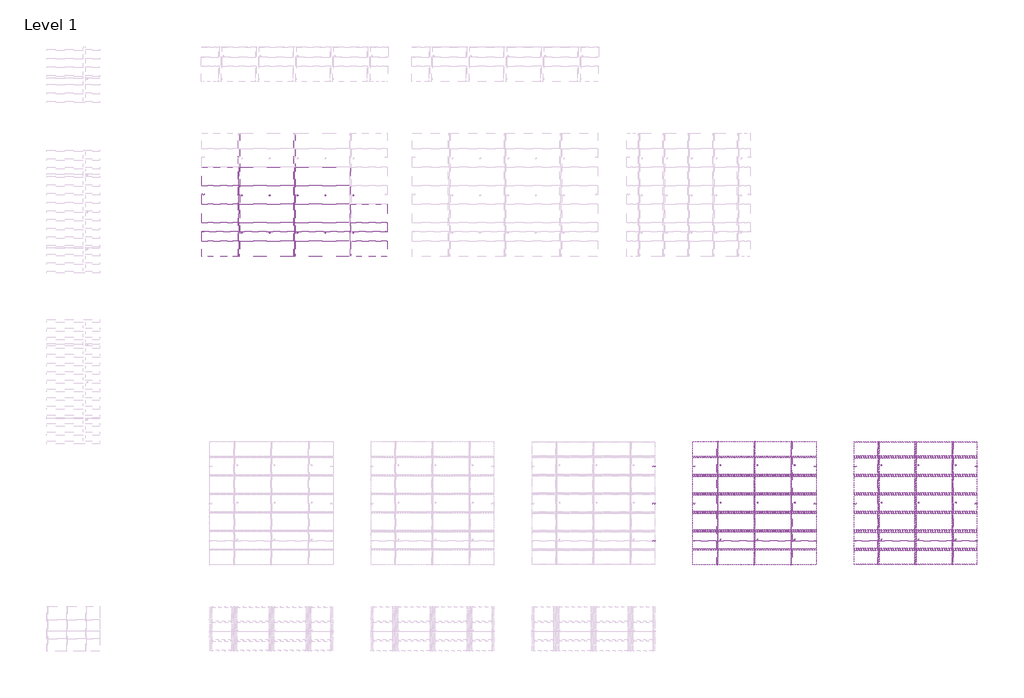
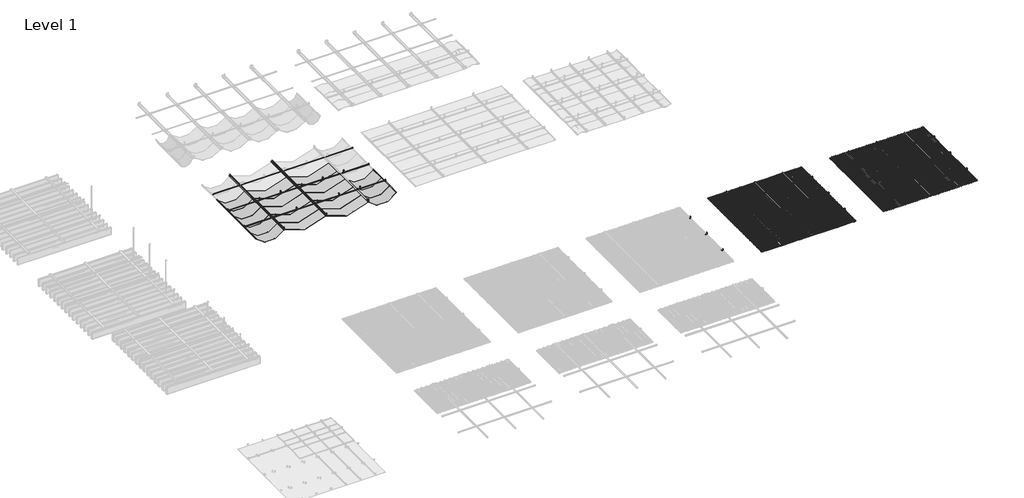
# One storey, part 29 of 32: 139 proxies.
"""IFC4 building model written with IfcOpenShell, lengths in millimetres."""

from ifc_helpers import new_model, si_unit, origin, place, context, project, spatial, transform, mapped, element, save
from components import generic_models_e8bac300, generic_models_696bcd8b, generic_models_00a943c8, generic_models_48d4e553, generic_models_385183af, generic_models_f4ce44e0, generic_models_ed86a27e, generic_models_4d5361e3, generic_models_770e7c39, generic_models_13372249, generic_models_8601f142, generic_models_3a5bc9b1, generic_models_3ca3e638, generic_models_450fa989, generic_models_d4018781, generic_models_44111244, generic_models_f6474ad0, generic_models_9e18e937, generic_models_28f6a95c, generic_models_9ccf16c1, generic_models_743fb40c

model = new_model("IFC4")

# Units and contexts
model_context = context("Model", 3, world=origin())
ifc_project = project(units=[si_unit("LENGTHUNIT", "METRE", prefix="MILLI")], contexts=[model_context])

# Site, building, storey
site = spatial("IfcSite", under=ifc_project)
building = spatial("IfcBuilding", under=site)
storey = spatial("IfcBuildingStorey", under=building, Name="Level 1", Elevation=0.0)

# Proxies
placement = place(None, origin())
generic_models_shape = generic_models_e8bac300(model_context)
element("IfcBuildingElementProxy", 1, Name="durlum_S7_DOMUS : durlum_S7_DOMUS", ObjectType="durlum_S7_DOMUS : durlum_S7_DOMUS", at=placement, inside=storey, context=model_context, shape_type="MappedRepresentation", body=[
    mapped(generic_models_shape, transform((36666.0104325, 19037.9344659, 0.0), x_axis=(1.0, 0.0, 0.0), y_axis=(0.0, 1.0, 0.0), z_axis=(0.0, 0.0, 1.0))),
])
generic_models_2_shape = generic_models_696bcd8b(model_context)
element("IfcBuildingElementProxy", 2, Name="durlum_S7_DOMUS_panel : durlum_S7_DOMUS_panel", ObjectType="durlum_S7_DOMUS_panel : durlum_S7_DOMUS_panel", at=placement, inside=storey, context=model_context, shape_type="MappedRepresentation", body=[
    mapped(generic_models_2_shape, transform((35766.0104325, 19637.9344659, 3800.0), x_axis=(1.0, 0.0, 0.0), y_axis=(0.0, 1.0, 0.0), z_axis=(0.0, 0.0, 1.0))),
])
element("IfcBuildingElementProxy", 3, Name="durlum_S7_DOMUS_panel : durlum_S7_DOMUS_panel", ObjectType="durlum_S7_DOMUS_panel : durlum_S7_DOMUS_panel", at=placement, inside=storey, context=model_context, shape_type="MappedRepresentation", body=[
    mapped(generic_models_2_shape, transform((37566.0104325, 19637.9344659, 3800.0), x_axis=(1.0, 0.0, 0.0), y_axis=(0.0, 1.0, 0.0), z_axis=(0.0, 0.0, 1.0))),
])
element("IfcBuildingElementProxy", 4, Name="durlum_S7_DOMUS_panel : durlum_S7_DOMUS_panel", ObjectType="durlum_S7_DOMUS_panel : durlum_S7_DOMUS_panel", at=placement, inside=storey, context=model_context, shape_type="MappedRepresentation", body=[
    mapped(generic_models_2_shape, transform((35766.0104325, 17837.9344659, 3800.0), x_axis=(1.0, 0.0, 0.0), y_axis=(0.0, 1.0, 0.0), z_axis=(0.0, 0.0, 1.0))),
])
element("IfcBuildingElementProxy", 5, Name="durlum_S7_DOMUS_panel : durlum_S7_DOMUS_panel", ObjectType="durlum_S7_DOMUS_panel : durlum_S7_DOMUS_panel", at=placement, inside=storey, context=model_context, shape_type="MappedRepresentation", body=[
    mapped(generic_models_2_shape, transform((37566.0104325, 17837.9344659, 3800.0), x_axis=(1.0, 0.0, 0.0), y_axis=(0.0, 1.0, 0.0), z_axis=(0.0, 0.0, 1.0))),
])
element("IfcBuildingElementProxy", 6, Name="durlum_S7_DOMUS_panel : durlum_S7_DOMUS_panel", ObjectType="durlum_S7_DOMUS_panel : durlum_S7_DOMUS_panel", at=placement, inside=storey, context=model_context, shape_type="MappedRepresentation", body=[
    mapped(generic_models_2_shape, transform((35766.0104325, 18437.9344659, 3800.0), x_axis=(1.0, 0.0, 0.0), y_axis=(0.0, 1.0, 0.0), z_axis=(0.0, 0.0, 1.0))),
])
element("IfcBuildingElementProxy", 7, Name="durlum_S7_DOMUS_panel : durlum_S7_DOMUS_panel", ObjectType="durlum_S7_DOMUS_panel : durlum_S7_DOMUS_panel", at=placement, inside=storey, context=model_context, shape_type="MappedRepresentation", body=[
    mapped(generic_models_2_shape, transform((37566.0104325, 18437.9344659, 3800.0), x_axis=(1.0, 0.0, 0.0), y_axis=(0.0, 1.0, 0.0), z_axis=(0.0, 0.0, 1.0))),
])
element("IfcBuildingElementProxy", 8, Name="durlum_S7_DOMUS_panel : durlum_S7_DOMUS_panel", ObjectType="durlum_S7_DOMUS_panel : durlum_S7_DOMUS_panel", at=placement, inside=storey, context=model_context, shape_type="MappedRepresentation", body=[
    mapped(generic_models_2_shape, transform((35766.0104325, 19037.9344659, 3800.0), x_axis=(1.0, 0.0, 0.0), y_axis=(0.0, 1.0, 0.0), z_axis=(0.0, 0.0, 1.0))),
])
element("IfcBuildingElementProxy", 9, Name="durlum_S7_DOMUS_panel : durlum_S7_DOMUS_panel", ObjectType="durlum_S7_DOMUS_panel : durlum_S7_DOMUS_panel", at=placement, inside=storey, context=model_context, shape_type="MappedRepresentation", body=[
    mapped(generic_models_2_shape, transform((37566.0104325, 19037.9344659, 3800.0), x_axis=(1.0, 0.0, 0.0), y_axis=(0.0, 1.0, 0.0), z_axis=(0.0, 0.0, 1.0))),
])
generic_models_3_shape = generic_models_00a943c8(model_context)
element("IfcBuildingElementProxy", 10, Name="durlum_S7_DOMUS_panel : durlum_S7_DOMUS_panel_wall_width_cut", ObjectType="durlum_S7_DOMUS_panel : durlum_S7_DOMUS_panel_wall_width_cut", at=placement, inside=storey, context=model_context, shape_type="MappedRepresentation", body=[
    mapped(generic_models_3_shape, transform((37566.0104325, 17287.9344659, 3800.0), x_axis=(1.0, 0.0, 0.0), y_axis=(0.0, 1.0, 0.0), z_axis=(0.0, 0.0, 1.0))),
])
element("IfcBuildingElementProxy", 11, Name="durlum_S7_DOMUS_panel : durlum_S7_DOMUS_panel_wall_width_cut", ObjectType="durlum_S7_DOMUS_panel : durlum_S7_DOMUS_panel_wall_width_cut", at=placement, inside=storey, context=model_context, shape_type="MappedRepresentation", body=[
    mapped(generic_models_3_shape, transform((35766.0104325, 17287.9344659, 3800.0), x_axis=(1.0, 0.0, 0.0), y_axis=(0.0, 1.0, 0.0), z_axis=(0.0, 0.0, 1.0))),
])
generic_models_4_shape = generic_models_48d4e553(model_context)
element("IfcBuildingElementProxy", 12, Name="durlum_S7_DOMUS_panel : durlum_S7_DOMUS_panel_wall_length_cut", ObjectType="durlum_S7_DOMUS_panel : durlum_S7_DOMUS_panel_wall_length_cut", at=placement, inside=storey, context=model_context, shape_type="MappedRepresentation", body=[
    mapped(generic_models_4_shape, transform((34266.0104325, 18437.9344659, 3800.0), x_axis=(1.0, 0.0, 0.0), y_axis=(0.0, 1.0, 0.0), z_axis=(0.0, 0.0, 1.0))),
])
element("IfcBuildingElementProxy", 13, Name="durlum_S7_DOMUS_panel : durlum_S7_DOMUS_panel_wall_length_cut", ObjectType="durlum_S7_DOMUS_panel : durlum_S7_DOMUS_panel_wall_length_cut", at=placement, inside=storey, context=model_context, shape_type="MappedRepresentation", body=[
    mapped(generic_models_4_shape, transform((34266.0104325, 19037.9344659, 3800.0), x_axis=(1.0, 0.0, 0.0), y_axis=(0.0, 1.0, 0.0), z_axis=(0.0, 0.0, 1.0))),
])
element("IfcBuildingElementProxy", 14, Name="durlum_S7_DOMUS_panel : durlum_S7_DOMUS_panel_wall_length_cut", ObjectType="durlum_S7_DOMUS_panel : durlum_S7_DOMUS_panel_wall_length_cut", at=placement, inside=storey, context=model_context, shape_type="MappedRepresentation", body=[
    mapped(generic_models_4_shape, transform((39066.0104325, 18437.9344659, 3800.0), x_axis=(1.0, 0.0, 0.0), y_axis=(0.0, 1.0, 0.0), z_axis=(0.0, 0.0, 1.0))),
])
element("IfcBuildingElementProxy", 15, Name="durlum_S7_DOMUS_panel : durlum_S7_DOMUS_panel_wall_length_cut", ObjectType="durlum_S7_DOMUS_panel : durlum_S7_DOMUS_panel_wall_length_cut", at=placement, inside=storey, context=model_context, shape_type="MappedRepresentation", body=[
    mapped(generic_models_4_shape, transform((34266.0104325, 19637.9344659, 3800.0), x_axis=(1.0, 0.0, 0.0), y_axis=(0.0, 1.0, 0.0), z_axis=(0.0, 0.0, 1.0))),
])
element("IfcBuildingElementProxy", 16, Name="durlum_S7_DOMUS_panel : durlum_S7_DOMUS_panel_wall_length_cut", ObjectType="durlum_S7_DOMUS_panel : durlum_S7_DOMUS_panel_wall_length_cut", at=placement, inside=storey, context=model_context, shape_type="MappedRepresentation", body=[
    mapped(generic_models_4_shape, transform((34266.0104325, 17837.9344659, 3800.0), x_axis=(1.0, 0.0, 0.0), y_axis=(0.0, 1.0, 0.0), z_axis=(0.0, 0.0, 1.0))),
])
element("IfcBuildingElementProxy", 17, Name="durlum_S7_DOMUS_panel : durlum_S7_DOMUS_panel_wall_length_cut", ObjectType="durlum_S7_DOMUS_panel : durlum_S7_DOMUS_panel_wall_length_cut", at=placement, inside=storey, context=model_context, shape_type="MappedRepresentation", body=[
    mapped(generic_models_4_shape, transform((39066.0104325, 17837.9344659, 3800.0), x_axis=(1.0, 0.0, 0.0), y_axis=(0.0, 1.0, 0.0), z_axis=(0.0, 0.0, 1.0))),
])
generic_models_5_shape = generic_models_385183af(model_context)
element("IfcBuildingElementProxy", 18, Name="durlum_S7_DOMUS_panel : durlum_S7_DOMUS_panel", ObjectType="durlum_S7_DOMUS_panel : durlum_S7_DOMUS_panel", at=placement, inside=storey, context=model_context, shape_type="MappedRepresentation", body=[
    mapped(generic_models_5_shape, transform((34266.0104325, 17287.9344659, 3800.0), x_axis=(1.0, 0.0, 0.0), y_axis=(0.0, 1.0, 0.0), z_axis=(0.0, 0.0, 1.0))),
])
element("IfcBuildingElementProxy", 19, Name="durlum_S7_DOMUS_panel : durlum_S7_DOMUS_panel", ObjectType="durlum_S7_DOMUS_panel : durlum_S7_DOMUS_panel", at=placement, inside=storey, context=model_context, shape_type="MappedRepresentation", body=[
    mapped(generic_models_5_shape, transform((39066.0104325, 17287.9344659, 3800.0), x_axis=(1.0, 0.0, 0.0), y_axis=(0.0, 1.0, 0.0), z_axis=(0.0, 0.0, 1.0))),
])
generic_models_6_shape = generic_models_f4ce44e0(model_context)
element("IfcBuildingElementProxy", 20, Name="durlum_U94 : durlum_U94", ObjectType="durlum_U94 : durlum_U94", at=placement, inside=storey, context=model_context, shape_type="MappedRepresentation", body=[
    mapped(generic_models_6_shape, transform((51517.1423778, 9073.8007196, 3724.0), x_axis=(0.0, 1.0, 0.0), y_axis=(-1.0, 0.0, 0.0), z_axis=(0.0, 0.0, 1.0))),
])
element("IfcBuildingElementProxy", 21, Name="durlum_U94 : durlum_U94", ObjectType="durlum_U94 : durlum_U94", at=placement, inside=storey, context=model_context, shape_type="MappedRepresentation", body=[
    mapped(generic_models_6_shape, transform((50317.1423778, 9073.8007196, 3724.0), x_axis=(0.0, 1.0, 0.0), y_axis=(-1.0, 0.0, 0.0), z_axis=(0.0, 0.0, 1.0))),
])
element("IfcBuildingElementProxy", 22, Name="durlum_U94 : durlum_U94", ObjectType="durlum_U94 : durlum_U94", at=placement, inside=storey, context=model_context, shape_type="MappedRepresentation", body=[
    mapped(generic_models_6_shape, transform((52717.1423778, 9073.8007196, 3724.0), x_axis=(0.0, 1.0, 0.0), y_axis=(-1.0, 0.0, 0.0), z_axis=(0.0, 0.0, 1.0))),
])
element("IfcBuildingElementProxy", 23, Name="durlum_U94 : durlum_U94", ObjectType="durlum_U94 : durlum_U94", at=placement, inside=storey, context=model_context, shape_type="MappedRepresentation", body=[
    mapped(generic_models_6_shape, transform((56717.1423778, 9073.8007196, 3724.0), x_axis=(0.0, 1.0, 0.0), y_axis=(-1.0, 0.0, 0.0), z_axis=(0.0, 0.0, 1.0))),
])
element("IfcBuildingElementProxy", 24, Name="durlum_U94 : durlum_U94", ObjectType="durlum_U94 : durlum_U94", at=placement, inside=storey, context=model_context, shape_type="MappedRepresentation", body=[
    mapped(generic_models_6_shape, transform((55517.1423778, 9073.8007196, 3724.0), x_axis=(0.0, 1.0, 0.0), y_axis=(-1.0, 0.0, 0.0), z_axis=(0.0, 0.0, 1.0))),
])
element("IfcBuildingElementProxy", 25, Name="durlum_U94 : durlum_U94", ObjectType="durlum_U94 : durlum_U94", at=placement, inside=storey, context=model_context, shape_type="MappedRepresentation", body=[
    mapped(generic_models_6_shape, transform((57917.1423778, 9073.8007196, 3724.0), x_axis=(0.0, 1.0, 0.0), y_axis=(-1.0, 0.0, 0.0), z_axis=(0.0, 0.0, 1.0))),
])
generic_models_7_shape = generic_models_ed86a27e(model_context)
element("IfcBuildingElementProxy", 26, Name="durlum_QUADRA : durlum_QUADRA", ObjectType="durlum_QUADRA : durlum_QUADRA", at=placement, inside=storey, context=model_context, shape_type="MappedRepresentation", body=[
    mapped(generic_models_7_shape, transform((51517.1423778, 9073.8007196, 0.0), x_axis=(1.0, 0.0, 0.0), y_axis=(0.0, 1.0, 0.0), z_axis=(0.0, 0.0, 1.0))),
])
generic_models_8_shape = generic_models_4d5361e3(model_context)
element("IfcBuildingElementProxy", 27, Name="durlum_QUADRA_panel : durlum_QUADRA_length_cut", ObjectType="durlum_QUADRA_panel : durlum_QUADRA_length_cut", at=placement, inside=storey, context=model_context, shape_type="MappedRepresentation", body=[
    mapped(generic_models_8_shape, transform((49916.8923778, 9673.8007196, 3700.0), x_axis=(1.0, 0.0, 0.0), y_axis=(0.0, 1.0, 0.0), z_axis=(0.0, 0.0, 1.0))),
])
element("IfcBuildingElementProxy", 28, Name="durlum_QUADRA_panel : durlum_QUADRA_length_cut", ObjectType="durlum_QUADRA_panel : durlum_QUADRA_length_cut", at=placement, inside=storey, context=model_context, shape_type="MappedRepresentation", body=[
    mapped(generic_models_8_shape, transform((49916.8923778, 9073.8007196, 3700.0), x_axis=(1.0, 0.0, 0.0), y_axis=(0.0, 1.0, 0.0), z_axis=(0.0, 0.0, 1.0))),
])
element("IfcBuildingElementProxy", 29, Name="durlum_QUADRA_panel : durlum_QUADRA_length_cut", ObjectType="durlum_QUADRA_panel : durlum_QUADRA_length_cut", at=placement, inside=storey, context=model_context, shape_type="MappedRepresentation", body=[
    mapped(generic_models_8_shape, transform((49916.8923778, 8473.8007196, 3700.0), x_axis=(1.0, 0.0, 0.0), y_axis=(0.0, 1.0, 0.0), z_axis=(0.0, 0.0, 1.0))),
])
element("IfcBuildingElementProxy", 30, Name="durlum_QUADRA_panel : durlum_QUADRA_length_cut", ObjectType="durlum_QUADRA_panel : durlum_QUADRA_length_cut", at=placement, inside=storey, context=model_context, shape_type="MappedRepresentation", body=[
    mapped(generic_models_8_shape, transform((53117.3923778, 9673.8007196, 3700.0), x_axis=(1.0, 0.0, 0.0), y_axis=(0.0, 1.0, 0.0), z_axis=(0.0, 0.0, 1.0))),
])
element("IfcBuildingElementProxy", 31, Name="durlum_QUADRA_panel : durlum_QUADRA_length_cut", ObjectType="durlum_QUADRA_panel : durlum_QUADRA_length_cut", at=placement, inside=storey, context=model_context, shape_type="MappedRepresentation", body=[
    mapped(generic_models_8_shape, transform((53117.3923778, 9073.8007196, 3700.0), x_axis=(1.0, 0.0, 0.0), y_axis=(0.0, 1.0, 0.0), z_axis=(0.0, 0.0, 1.0))),
])
element("IfcBuildingElementProxy", 32, Name="durlum_QUADRA_panel : durlum_QUADRA_length_cut", ObjectType="durlum_QUADRA_panel : durlum_QUADRA_length_cut", at=placement, inside=storey, context=model_context, shape_type="MappedRepresentation", body=[
    mapped(generic_models_8_shape, transform((53117.3923778, 8473.8007196, 3700.0), x_axis=(1.0, 0.0, 0.0), y_axis=(0.0, 1.0, 0.0), z_axis=(0.0, 0.0, 1.0))),
])
element("IfcBuildingElementProxy", 33, Name="durlum_QUADRA_panel : durlum_QUADRA_length_cut", ObjectType="durlum_QUADRA_panel : durlum_QUADRA_length_cut", at=placement, inside=storey, context=model_context, shape_type="MappedRepresentation", body=[
    mapped(generic_models_8_shape, transform((53117.3923778, 10273.8007196, 3700.0), x_axis=(1.0, 0.0, 0.0), y_axis=(0.0, 1.0, 0.0), z_axis=(0.0, 0.0, 1.0))),
])
element("IfcBuildingElementProxy", 34, Name="durlum_QUADRA_panel : durlum_QUADRA_length_cut", ObjectType="durlum_QUADRA_panel : durlum_QUADRA_length_cut", at=placement, inside=storey, context=model_context, shape_type="MappedRepresentation", body=[
    mapped(generic_models_8_shape, transform((49916.8923778, 10273.8007196, 3700.0), x_axis=(1.0, 0.0, 0.0), y_axis=(0.0, 1.0, 0.0), z_axis=(0.0, 0.0, 1.0))),
])
element("IfcBuildingElementProxy", 35, Name="durlum_QUADRA_panel : durlum_QUADRA_length_cut", ObjectType="durlum_QUADRA_panel : durlum_QUADRA_length_cut", at=placement, inside=storey, context=model_context, shape_type="MappedRepresentation", body=[
    mapped(generic_models_8_shape, transform((49916.8923778, 7873.8007196, 3700.0), x_axis=(1.0, 0.0, 0.0), y_axis=(0.0, 1.0, 0.0), z_axis=(0.0, 0.0, 1.0))),
])
element("IfcBuildingElementProxy", 36, Name="durlum_QUADRA_panel : durlum_QUADRA_length_cut", ObjectType="durlum_QUADRA_panel : durlum_QUADRA_length_cut", at=placement, inside=storey, context=model_context, shape_type="MappedRepresentation", body=[
    mapped(generic_models_8_shape, transform((53117.3923778, 7873.8007196, 3700.0), x_axis=(1.0, 0.0, 0.0), y_axis=(0.0, 1.0, 0.0), z_axis=(0.0, 0.0, 1.0))),
])
generic_models_9_shape = generic_models_770e7c39(model_context)
element("IfcBuildingElementProxy", 37, Name="durlum_QUADRA_panel : durlum_QUADRA_width_cut", ObjectType="durlum_QUADRA_panel : durlum_QUADRA_width_cut", at=placement, inside=storey, context=model_context, shape_type="MappedRepresentation", body=[
    mapped(generic_models_9_shape, transform((50917.1423778, 7323.8007196, 3700.0), x_axis=(1.0, 0.0, 0.0), y_axis=(0.0, 1.0, 0.0), z_axis=(0.0, 0.0, 1.0))),
])
element("IfcBuildingElementProxy", 38, Name="durlum_QUADRA_panel : durlum_QUADRA_width_cut", ObjectType="durlum_QUADRA_panel : durlum_QUADRA_width_cut", at=placement, inside=storey, context=model_context, shape_type="MappedRepresentation", body=[
    mapped(generic_models_9_shape, transform((50917.1423778, 10823.8007196, 3700.0), x_axis=(1.0, 0.0, 0.0), y_axis=(0.0, 1.0, 0.0), z_axis=(0.0, 0.0, 1.0))),
])
element("IfcBuildingElementProxy", 39, Name="durlum_QUADRA_panel : durlum_QUADRA_width_cut", ObjectType="durlum_QUADRA_panel : durlum_QUADRA_width_cut", at=placement, inside=storey, context=model_context, shape_type="MappedRepresentation", body=[
    mapped(generic_models_9_shape, transform((52117.1423778, 7323.8007196, 3700.0), x_axis=(1.0, 0.0, 0.0), y_axis=(0.0, 1.0, 0.0), z_axis=(0.0, 0.0, 1.0))),
])
element("IfcBuildingElementProxy", 40, Name="durlum_QUADRA_panel : durlum_QUADRA_width_cut", ObjectType="durlum_QUADRA_panel : durlum_QUADRA_width_cut", at=placement, inside=storey, context=model_context, shape_type="MappedRepresentation", body=[
    mapped(generic_models_9_shape, transform((52117.1423778, 10823.8007196, 3700.0), x_axis=(1.0, 0.0, 0.0), y_axis=(0.0, 1.0, 0.0), z_axis=(0.0, 0.0, 1.0))),
])
generic_models_10_shape = generic_models_13372249(model_context)
element("IfcBuildingElementProxy", 41, Name="durlum_QUADRA_panel : durlum_QUADRA", ObjectType="durlum_QUADRA_panel : durlum_QUADRA", at=placement, inside=storey, context=model_context, shape_type="MappedRepresentation", body=[
    mapped(generic_models_10_shape, transform((50917.1423778, 8473.8007196, 3700.0), x_axis=(1.0, 0.0, 0.0), y_axis=(0.0, 1.0, 0.0), z_axis=(0.0, 0.0, 1.0))),
])
element("IfcBuildingElementProxy", 42, Name="durlum_QUADRA_panel : durlum_QUADRA", ObjectType="durlum_QUADRA_panel : durlum_QUADRA", at=placement, inside=storey, context=model_context, shape_type="MappedRepresentation", body=[
    mapped(generic_models_10_shape, transform((52117.1423778, 8473.8007196, 3700.0), x_axis=(1.0, 0.0, 0.0), y_axis=(0.0, 1.0, 0.0), z_axis=(0.0, 0.0, 1.0))),
])
element("IfcBuildingElementProxy", 43, Name="durlum_QUADRA_panel : durlum_QUADRA", ObjectType="durlum_QUADRA_panel : durlum_QUADRA", at=placement, inside=storey, context=model_context, shape_type="MappedRepresentation", body=[
    mapped(generic_models_10_shape, transform((50917.1423778, 9073.8007196, 3700.0), x_axis=(1.0, 0.0, 0.0), y_axis=(0.0, 1.0, 0.0), z_axis=(0.0, 0.0, 1.0))),
])
element("IfcBuildingElementProxy", 44, Name="durlum_QUADRA_panel : durlum_QUADRA", ObjectType="durlum_QUADRA_panel : durlum_QUADRA", at=placement, inside=storey, context=model_context, shape_type="MappedRepresentation", body=[
    mapped(generic_models_10_shape, transform((52117.1423778, 9073.8007196, 3700.0), x_axis=(1.0, 0.0, 0.0), y_axis=(0.0, 1.0, 0.0), z_axis=(0.0, 0.0, 1.0))),
])
element("IfcBuildingElementProxy", 45, Name="durlum_QUADRA_panel : durlum_QUADRA", ObjectType="durlum_QUADRA_panel : durlum_QUADRA", at=placement, inside=storey, context=model_context, shape_type="MappedRepresentation", body=[
    mapped(generic_models_10_shape, transform((50917.1423778, 9673.8007196, 3700.0), x_axis=(1.0, 0.0, 0.0), y_axis=(0.0, 1.0, 0.0), z_axis=(0.0, 0.0, 1.0))),
])
element("IfcBuildingElementProxy", 46, Name="durlum_QUADRA_panel : durlum_QUADRA", ObjectType="durlum_QUADRA_panel : durlum_QUADRA", at=placement, inside=storey, context=model_context, shape_type="MappedRepresentation", body=[
    mapped(generic_models_10_shape, transform((52117.1423778, 9673.8007196, 3700.0), x_axis=(1.0, 0.0, 0.0), y_axis=(0.0, 1.0, 0.0), z_axis=(0.0, 0.0, 1.0))),
])
element("IfcBuildingElementProxy", 47, Name="durlum_QUADRA_panel : durlum_QUADRA", ObjectType="durlum_QUADRA_panel : durlum_QUADRA", at=placement, inside=storey, context=model_context, shape_type="MappedRepresentation", body=[
    mapped(generic_models_10_shape, transform((50917.1423778, 7873.8007196, 3700.0), x_axis=(1.0, 0.0, 0.0), y_axis=(0.0, 1.0, 0.0), z_axis=(0.0, 0.0, 1.0))),
])
element("IfcBuildingElementProxy", 48, Name="durlum_QUADRA_panel : durlum_QUADRA", ObjectType="durlum_QUADRA_panel : durlum_QUADRA", at=placement, inside=storey, context=model_context, shape_type="MappedRepresentation", body=[
    mapped(generic_models_10_shape, transform((52117.1423778, 7873.8007196, 3700.0), x_axis=(1.0, 0.0, 0.0), y_axis=(0.0, 1.0, 0.0), z_axis=(0.0, 0.0, 1.0))),
])
element("IfcBuildingElementProxy", 49, Name="durlum_QUADRA_panel : durlum_QUADRA", ObjectType="durlum_QUADRA_panel : durlum_QUADRA", at=placement, inside=storey, context=model_context, shape_type="MappedRepresentation", body=[
    mapped(generic_models_10_shape, transform((50917.1423778, 10273.8007196, 3700.0), x_axis=(1.0, 0.0, 0.0), y_axis=(0.0, 1.0, 0.0), z_axis=(0.0, 0.0, 1.0))),
])
element("IfcBuildingElementProxy", 50, Name="durlum_QUADRA_panel : durlum_QUADRA", ObjectType="durlum_QUADRA_panel : durlum_QUADRA", at=placement, inside=storey, context=model_context, shape_type="MappedRepresentation", body=[
    mapped(generic_models_10_shape, transform((52117.1423778, 10273.8007196, 3700.0), x_axis=(1.0, 0.0, 0.0), y_axis=(0.0, 1.0, 0.0), z_axis=(0.0, 0.0, 1.0))),
])
generic_models_11_shape = generic_models_8601f142(model_context)
element("IfcBuildingElementProxy", 51, Name="durlum_QUADRA_panel : durlum_QUADRA_corner_cut", ObjectType="durlum_QUADRA_panel : durlum_QUADRA_corner_cut", at=placement, inside=storey, context=model_context, shape_type="MappedRepresentation", body=[
    mapped(generic_models_11_shape, transform((53117.3923778, 10823.8007196, 3700.0), x_axis=(1.0, 0.0, 0.0), y_axis=(0.0, 1.0, 0.0), z_axis=(0.0, 0.0, 1.0))),
])
element("IfcBuildingElementProxy", 52, Name="durlum_QUADRA_panel : durlum_QUADRA_corner_cut", ObjectType="durlum_QUADRA_panel : durlum_QUADRA_corner_cut", at=placement, inside=storey, context=model_context, shape_type="MappedRepresentation", body=[
    mapped(generic_models_11_shape, transform((49916.8923778, 10823.8007196, 3700.0), x_axis=(1.0, 0.0, 0.0), y_axis=(0.0, 1.0, 0.0), z_axis=(0.0, 0.0, 1.0))),
])
element("IfcBuildingElementProxy", 53, Name="durlum_QUADRA_panel : durlum_QUADRA_corner_cut", ObjectType="durlum_QUADRA_panel : durlum_QUADRA_corner_cut", at=placement, inside=storey, context=model_context, shape_type="MappedRepresentation", body=[
    mapped(generic_models_11_shape, transform((49916.8923778, 7323.8007196, 3700.0), x_axis=(1.0, 0.0, 0.0), y_axis=(0.0, 1.0, 0.0), z_axis=(0.0, 0.0, 1.0))),
])
element("IfcBuildingElementProxy", 54, Name="durlum_QUADRA_panel : durlum_QUADRA_corner_cut", ObjectType="durlum_QUADRA_panel : durlum_QUADRA_corner_cut", at=placement, inside=storey, context=model_context, shape_type="MappedRepresentation", body=[
    mapped(generic_models_11_shape, transform((53117.3923778, 7323.8007196, 3700.0), x_axis=(1.0, 0.0, 0.0), y_axis=(0.0, 1.0, 0.0), z_axis=(0.0, 0.0, 1.0))),
])
element("IfcBuildingElementProxy", 55, Name="durlum_QUADRA : durlum_QUADRA", ObjectType="durlum_QUADRA : durlum_QUADRA", at=placement, inside=storey, context=model_context, shape_type="MappedRepresentation", body=[
    mapped(generic_models_7_shape, transform((56717.1423778, 9073.8007196, 0.0), x_axis=(1.0, 0.0, 0.0), y_axis=(0.0, 1.0, 0.0), z_axis=(0.0, 0.0, 1.0))),
])
generic_models_12_shape = generic_models_3a5bc9b1(model_context)
element("IfcBuildingElementProxy", 56, Name="durlum_QUADRA_panel : durlum_QUADRA_length_cut", ObjectType="durlum_QUADRA_panel : durlum_QUADRA_length_cut", at=placement, inside=storey, context=model_context, shape_type="MappedRepresentation", body=[
    mapped(generic_models_12_shape, transform((55116.8923778, 9673.8007196, 3700.0), x_axis=(1.0, 0.0, 0.0), y_axis=(0.0, 1.0, 0.0), z_axis=(0.0, 0.0, 1.0))),
])
element("IfcBuildingElementProxy", 57, Name="durlum_QUADRA_panel : durlum_QUADRA_length_cut", ObjectType="durlum_QUADRA_panel : durlum_QUADRA_length_cut", at=placement, inside=storey, context=model_context, shape_type="MappedRepresentation", body=[
    mapped(generic_models_12_shape, transform((55116.8923778, 9073.8007196, 3700.0), x_axis=(1.0, 0.0, 0.0), y_axis=(0.0, 1.0, 0.0), z_axis=(0.0, 0.0, 1.0))),
])
element("IfcBuildingElementProxy", 58, Name="durlum_QUADRA_panel : durlum_QUADRA_length_cut", ObjectType="durlum_QUADRA_panel : durlum_QUADRA_length_cut", at=placement, inside=storey, context=model_context, shape_type="MappedRepresentation", body=[
    mapped(generic_models_12_shape, transform((55116.8923778, 8473.8007196, 3700.0), x_axis=(1.0, 0.0, 0.0), y_axis=(0.0, 1.0, 0.0), z_axis=(0.0, 0.0, 1.0))),
])
element("IfcBuildingElementProxy", 59, Name="durlum_QUADRA_panel : durlum_QUADRA_length_cut", ObjectType="durlum_QUADRA_panel : durlum_QUADRA_length_cut", at=placement, inside=storey, context=model_context, shape_type="MappedRepresentation", body=[
    mapped(generic_models_12_shape, transform((58317.3923778, 9673.8007196, 3700.0), x_axis=(1.0, 0.0, 0.0), y_axis=(0.0, 1.0, 0.0), z_axis=(0.0, 0.0, 1.0))),
])
element("IfcBuildingElementProxy", 60, Name="durlum_QUADRA_panel : durlum_QUADRA_length_cut", ObjectType="durlum_QUADRA_panel : durlum_QUADRA_length_cut", at=placement, inside=storey, context=model_context, shape_type="MappedRepresentation", body=[
    mapped(generic_models_12_shape, transform((58317.3923778, 9073.8007196, 3700.0), x_axis=(1.0, 0.0, 0.0), y_axis=(0.0, 1.0, 0.0), z_axis=(0.0, 0.0, 1.0))),
])
element("IfcBuildingElementProxy", 61, Name="durlum_QUADRA_panel : durlum_QUADRA_length_cut", ObjectType="durlum_QUADRA_panel : durlum_QUADRA_length_cut", at=placement, inside=storey, context=model_context, shape_type="MappedRepresentation", body=[
    mapped(generic_models_12_shape, transform((58317.3923778, 8473.8007196, 3700.0), x_axis=(1.0, 0.0, 0.0), y_axis=(0.0, 1.0, 0.0), z_axis=(0.0, 0.0, 1.0))),
])
element("IfcBuildingElementProxy", 62, Name="durlum_QUADRA_panel : durlum_QUADRA_length_cut", ObjectType="durlum_QUADRA_panel : durlum_QUADRA_length_cut", at=placement, inside=storey, context=model_context, shape_type="MappedRepresentation", body=[
    mapped(generic_models_12_shape, transform((58317.3923778, 10273.8007196, 3700.0), x_axis=(1.0, 0.0, 0.0), y_axis=(0.0, 1.0, 0.0), z_axis=(0.0, 0.0, 1.0))),
])
element("IfcBuildingElementProxy", 63, Name="durlum_QUADRA_panel : durlum_QUADRA_length_cut", ObjectType="durlum_QUADRA_panel : durlum_QUADRA_length_cut", at=placement, inside=storey, context=model_context, shape_type="MappedRepresentation", body=[
    mapped(generic_models_12_shape, transform((55116.8923778, 10273.8007196, 3700.0), x_axis=(1.0, 0.0, 0.0), y_axis=(0.0, 1.0, 0.0), z_axis=(0.0, 0.0, 1.0))),
])
element("IfcBuildingElementProxy", 64, Name="durlum_QUADRA_panel : durlum_QUADRA_length_cut", ObjectType="durlum_QUADRA_panel : durlum_QUADRA_length_cut", at=placement, inside=storey, context=model_context, shape_type="MappedRepresentation", body=[
    mapped(generic_models_12_shape, transform((55116.8923778, 7873.8007196, 3700.0), x_axis=(1.0, 0.0, 0.0), y_axis=(0.0, 1.0, 0.0), z_axis=(0.0, 0.0, 1.0))),
])
element("IfcBuildingElementProxy", 65, Name="durlum_QUADRA_panel : durlum_QUADRA_length_cut", ObjectType="durlum_QUADRA_panel : durlum_QUADRA_length_cut", at=placement, inside=storey, context=model_context, shape_type="MappedRepresentation", body=[
    mapped(generic_models_12_shape, transform((58317.3923778, 7873.8007196, 3700.0), x_axis=(1.0, 0.0, 0.0), y_axis=(0.0, 1.0, 0.0), z_axis=(0.0, 0.0, 1.0))),
])
generic_models_13_shape = generic_models_3ca3e638(model_context)
element("IfcBuildingElementProxy", 66, Name="durlum_QUADRA_panel : durlum_QUADRA_width_cut", ObjectType="durlum_QUADRA_panel : durlum_QUADRA_width_cut", at=placement, inside=storey, context=model_context, shape_type="MappedRepresentation", body=[
    mapped(generic_models_13_shape, transform((56117.1423778, 7323.8007196, 3700.0), x_axis=(1.0, 0.0, 0.0), y_axis=(0.0, 1.0, 0.0), z_axis=(0.0, 0.0, 1.0))),
])
element("IfcBuildingElementProxy", 67, Name="durlum_QUADRA_panel : durlum_QUADRA_width_cut", ObjectType="durlum_QUADRA_panel : durlum_QUADRA_width_cut", at=placement, inside=storey, context=model_context, shape_type="MappedRepresentation", body=[
    mapped(generic_models_13_shape, transform((56117.1423778, 10823.8007196, 3700.0), x_axis=(1.0, 0.0, 0.0), y_axis=(0.0, 1.0, 0.0), z_axis=(0.0, 0.0, 1.0))),
])
element("IfcBuildingElementProxy", 68, Name="durlum_QUADRA_panel : durlum_QUADRA_width_cut", ObjectType="durlum_QUADRA_panel : durlum_QUADRA_width_cut", at=placement, inside=storey, context=model_context, shape_type="MappedRepresentation", body=[
    mapped(generic_models_13_shape, transform((57317.1423778, 7323.8007196, 3700.0), x_axis=(1.0, 0.0, 0.0), y_axis=(0.0, 1.0, 0.0), z_axis=(0.0, 0.0, 1.0))),
])
element("IfcBuildingElementProxy", 69, Name="durlum_QUADRA_panel : durlum_QUADRA_width_cut", ObjectType="durlum_QUADRA_panel : durlum_QUADRA_width_cut", at=placement, inside=storey, context=model_context, shape_type="MappedRepresentation", body=[
    mapped(generic_models_13_shape, transform((57317.1423778, 10823.8007196, 3700.0), x_axis=(1.0, 0.0, 0.0), y_axis=(0.0, 1.0, 0.0), z_axis=(0.0, 0.0, 1.0))),
])
generic_models_14_shape = generic_models_450fa989(model_context)
element("IfcBuildingElementProxy", 70, Name="durlum_QUADRA_panel : durlum_QUADRA", ObjectType="durlum_QUADRA_panel : durlum_QUADRA", at=placement, inside=storey, context=model_context, shape_type="MappedRepresentation", body=[
    mapped(generic_models_14_shape, transform((56117.1423778, 8473.8007196, 3700.0), x_axis=(1.0, 0.0, 0.0), y_axis=(0.0, 1.0, 0.0), z_axis=(0.0, 0.0, 1.0))),
])
element("IfcBuildingElementProxy", 71, Name="durlum_QUADRA_panel : durlum_QUADRA", ObjectType="durlum_QUADRA_panel : durlum_QUADRA", at=placement, inside=storey, context=model_context, shape_type="MappedRepresentation", body=[
    mapped(generic_models_14_shape, transform((57317.1423778, 8473.8007196, 3700.0), x_axis=(1.0, 0.0, 0.0), y_axis=(0.0, 1.0, 0.0), z_axis=(0.0, 0.0, 1.0))),
])
element("IfcBuildingElementProxy", 72, Name="durlum_QUADRA_panel : durlum_QUADRA", ObjectType="durlum_QUADRA_panel : durlum_QUADRA", at=placement, inside=storey, context=model_context, shape_type="MappedRepresentation", body=[
    mapped(generic_models_14_shape, transform((56117.1423778, 9073.8007196, 3700.0), x_axis=(1.0, 0.0, 0.0), y_axis=(0.0, 1.0, 0.0), z_axis=(0.0, 0.0, 1.0))),
])
element("IfcBuildingElementProxy", 73, Name="durlum_QUADRA_panel : durlum_QUADRA", ObjectType="durlum_QUADRA_panel : durlum_QUADRA", at=placement, inside=storey, context=model_context, shape_type="MappedRepresentation", body=[
    mapped(generic_models_14_shape, transform((57317.1423778, 9073.8007196, 3700.0), x_axis=(1.0, 0.0, 0.0), y_axis=(0.0, 1.0, 0.0), z_axis=(0.0, 0.0, 1.0))),
])
element("IfcBuildingElementProxy", 74, Name="durlum_QUADRA_panel : durlum_QUADRA", ObjectType="durlum_QUADRA_panel : durlum_QUADRA", at=placement, inside=storey, context=model_context, shape_type="MappedRepresentation", body=[
    mapped(generic_models_14_shape, transform((56117.1423778, 9673.8007196, 3700.0), x_axis=(1.0, 0.0, 0.0), y_axis=(0.0, 1.0, 0.0), z_axis=(0.0, 0.0, 1.0))),
])
element("IfcBuildingElementProxy", 75, Name="durlum_QUADRA_panel : durlum_QUADRA", ObjectType="durlum_QUADRA_panel : durlum_QUADRA", at=placement, inside=storey, context=model_context, shape_type="MappedRepresentation", body=[
    mapped(generic_models_14_shape, transform((57317.1423778, 9673.8007196, 3700.0), x_axis=(1.0, 0.0, 0.0), y_axis=(0.0, 1.0, 0.0), z_axis=(0.0, 0.0, 1.0))),
])
element("IfcBuildingElementProxy", 76, Name="durlum_QUADRA_panel : durlum_QUADRA", ObjectType="durlum_QUADRA_panel : durlum_QUADRA", at=placement, inside=storey, context=model_context, shape_type="MappedRepresentation", body=[
    mapped(generic_models_14_shape, transform((56117.1423778, 7873.8007196, 3700.0), x_axis=(1.0, 0.0, 0.0), y_axis=(0.0, 1.0, 0.0), z_axis=(0.0, 0.0, 1.0))),
])
element("IfcBuildingElementProxy", 77, Name="durlum_QUADRA_panel : durlum_QUADRA", ObjectType="durlum_QUADRA_panel : durlum_QUADRA", at=placement, inside=storey, context=model_context, shape_type="MappedRepresentation", body=[
    mapped(generic_models_14_shape, transform((57317.1423778, 7873.8007196, 3700.0), x_axis=(1.0, 0.0, 0.0), y_axis=(0.0, 1.0, 0.0), z_axis=(0.0, 0.0, 1.0))),
])
element("IfcBuildingElementProxy", 78, Name="durlum_QUADRA_panel : durlum_QUADRA", ObjectType="durlum_QUADRA_panel : durlum_QUADRA", at=placement, inside=storey, context=model_context, shape_type="MappedRepresentation", body=[
    mapped(generic_models_14_shape, transform((56117.1423778, 10273.8007196, 3700.0), x_axis=(1.0, 0.0, 0.0), y_axis=(0.0, 1.0, 0.0), z_axis=(0.0, 0.0, 1.0))),
])
element("IfcBuildingElementProxy", 79, Name="durlum_QUADRA_panel : durlum_QUADRA", ObjectType="durlum_QUADRA_panel : durlum_QUADRA", at=placement, inside=storey, context=model_context, shape_type="MappedRepresentation", body=[
    mapped(generic_models_14_shape, transform((57317.1423778, 10273.8007196, 3700.0), x_axis=(1.0, 0.0, 0.0), y_axis=(0.0, 1.0, 0.0), z_axis=(0.0, 0.0, 1.0))),
])
generic_models_15_shape = generic_models_d4018781(model_context)
element("IfcBuildingElementProxy", 80, Name="durlum_QUADRA_panel : durlum_QUADRA_corner_cut", ObjectType="durlum_QUADRA_panel : durlum_QUADRA_corner_cut", at=placement, inside=storey, context=model_context, shape_type="MappedRepresentation", body=[
    mapped(generic_models_15_shape, transform((58317.3923778, 10823.8007196, 3700.0), x_axis=(1.0, 0.0, 0.0), y_axis=(0.0, 1.0, 0.0), z_axis=(0.0, 0.0, 1.0))),
])
element("IfcBuildingElementProxy", 81, Name="durlum_QUADRA_panel : durlum_QUADRA_corner_cut", ObjectType="durlum_QUADRA_panel : durlum_QUADRA_corner_cut", at=placement, inside=storey, context=model_context, shape_type="MappedRepresentation", body=[
    mapped(generic_models_15_shape, transform((55116.8923778, 10823.8007196, 3700.0), x_axis=(1.0, 0.0, 0.0), y_axis=(0.0, 1.0, 0.0), z_axis=(0.0, 0.0, 1.0))),
])
element("IfcBuildingElementProxy", 82, Name="durlum_QUADRA_panel : durlum_QUADRA_corner_cut", ObjectType="durlum_QUADRA_panel : durlum_QUADRA_corner_cut", at=placement, inside=storey, context=model_context, shape_type="MappedRepresentation", body=[
    mapped(generic_models_15_shape, transform((55116.8923778, 7323.8007196, 3700.0), x_axis=(1.0, 0.0, 0.0), y_axis=(0.0, 1.0, 0.0), z_axis=(0.0, 0.0, 1.0))),
])
element("IfcBuildingElementProxy", 83, Name="durlum_QUADRA_panel : durlum_QUADRA_corner_cut", ObjectType="durlum_QUADRA_panel : durlum_QUADRA_corner_cut", at=placement, inside=storey, context=model_context, shape_type="MappedRepresentation", body=[
    mapped(generic_models_15_shape, transform((58317.3923778, 7323.8007196, 3700.0), x_axis=(1.0, 0.0, 0.0), y_axis=(0.0, 1.0, 0.0), z_axis=(0.0, 0.0, 1.0))),
])
generic_models_16_shape = generic_models_44111244(model_context)
element("IfcBuildingElementProxy", 84, Name="durlum_U1300 : durlum_U1300", ObjectType="durlum_U1300 : durlum_U1300", at=placement, inside=storey, context=model_context, shape_type="MappedRepresentation", body=[
    mapped(generic_models_16_shape, transform((34966.0104325, 17837.9344659, 3141.4124682), x_axis=(1.0, 0.0, 0.0), y_axis=(0.0, 1.0, 0.0), z_axis=(0.0, 0.0, 1.0))),
])
element("IfcBuildingElementProxy", 85, Name="durlum_U1300 : durlum_U1300", ObjectType="durlum_U1300 : durlum_U1300", at=placement, inside=storey, context=model_context, shape_type="MappedRepresentation", body=[
    mapped(generic_models_16_shape, transform((38566.0104325, 17837.9344659, 3141.4124682), x_axis=(1.0, 0.0, 0.0), y_axis=(0.0, 1.0, 0.0), z_axis=(0.0, 0.0, 1.0))),
])
element("IfcBuildingElementProxy", 86, Name="durlum_U1300 : durlum_U1300", ObjectType="durlum_U1300 : durlum_U1300", at=placement, inside=storey, context=model_context, shape_type="MappedRepresentation", body=[
    mapped(generic_models_16_shape, transform((35866.0104325, 17837.9344659, 3141.4124682), x_axis=(1.0, 0.0, 0.0), y_axis=(0.0, 1.0, 0.0), z_axis=(0.0, 0.0, 1.0))),
])
element("IfcBuildingElementProxy", 87, Name="durlum_U1300 : durlum_U1300", ObjectType="durlum_U1300 : durlum_U1300", at=placement, inside=storey, context=model_context, shape_type="MappedRepresentation", body=[
    mapped(generic_models_16_shape, transform((34966.0104325, 19037.9344659, 3141.4124682), x_axis=(1.0, 0.0, 0.0), y_axis=(0.0, 1.0, 0.0), z_axis=(0.0, 0.0, 1.0))),
])
element("IfcBuildingElementProxy", 88, Name="durlum_U1300 : durlum_U1300", ObjectType="durlum_U1300 : durlum_U1300", at=placement, inside=storey, context=model_context, shape_type="MappedRepresentation", body=[
    mapped(generic_models_16_shape, transform((38566.0104325, 19037.9344659, 3141.4124682), x_axis=(1.0, 0.0, 0.0), y_axis=(0.0, 1.0, 0.0), z_axis=(0.0, 0.0, 1.0))),
])
element("IfcBuildingElementProxy", 89, Name="durlum_U1300 : durlum_U1300", ObjectType="durlum_U1300 : durlum_U1300", at=placement, inside=storey, context=model_context, shape_type="MappedRepresentation", body=[
    mapped(generic_models_16_shape, transform((35866.0104325, 19037.9344659, 3141.4124682), x_axis=(1.0, 0.0, 0.0), y_axis=(0.0, 1.0, 0.0), z_axis=(0.0, 0.0, 1.0))),
])
element("IfcBuildingElementProxy", 90, Name="durlum_U1300 : durlum_U1300", ObjectType="durlum_U1300 : durlum_U1300", at=placement, inside=storey, context=model_context, shape_type="MappedRepresentation", body=[
    mapped(generic_models_16_shape, transform((36766.0104325, 17837.9344659, 3141.4124682), x_axis=(1.0, 0.0, 0.0), y_axis=(0.0, 1.0, 0.0), z_axis=(0.0, 0.0, 1.0))),
])
element("IfcBuildingElementProxy", 91, Name="durlum_U1300 : durlum_U1300", ObjectType="durlum_U1300 : durlum_U1300", at=placement, inside=storey, context=model_context, shape_type="MappedRepresentation", body=[
    mapped(generic_models_16_shape, transform((36766.0104325, 19037.9344659, 3141.4124682), x_axis=(1.0, 0.0, 0.0), y_axis=(0.0, 1.0, 0.0), z_axis=(0.0, 0.0, 1.0))),
])
element("IfcBuildingElementProxy", 92, Name="durlum_U1300 : durlum_U1300", ObjectType="durlum_U1300 : durlum_U1300", at=placement, inside=storey, context=model_context, shape_type="MappedRepresentation", body=[
    mapped(generic_models_16_shape, transform((37666.0104325, 17837.9344659, 3141.4124682), x_axis=(1.0, 0.0, 0.0), y_axis=(0.0, 1.0, 0.0), z_axis=(0.0, 0.0, 1.0))),
])
element("IfcBuildingElementProxy", 93, Name="durlum_U1300 : durlum_U1300", ObjectType="durlum_U1300 : durlum_U1300", at=placement, inside=storey, context=model_context, shape_type="MappedRepresentation", body=[
    mapped(generic_models_16_shape, transform((37666.0104325, 19037.9344659, 3141.4124682), x_axis=(1.0, 0.0, 0.0), y_axis=(0.0, 1.0, 0.0), z_axis=(0.0, 0.0, 1.0))),
])
generic_models_17_shape = generic_models_f6474ad0(model_context)
element("IfcBuildingElementProxy", 94, Name="durlum_U1300 : durlum_U1300", ObjectType="durlum_U1300 : durlum_U1300", at=placement, inside=storey, context=model_context, shape_type="MappedRepresentation", body=[
    mapped(generic_models_17_shape, transform((50417.1423778, 9073.8007196, 2999.4124682), x_axis=(-1.0, 0.0, 0.0), y_axis=(0.0, -1.0, 0.0), z_axis=(0.0, 0.0, 1.0))),
])
element("IfcBuildingElementProxy", 95, Name="durlum_U1300 : durlum_U1300", ObjectType="durlum_U1300 : durlum_U1300", at=placement, inside=storey, context=model_context, shape_type="MappedRepresentation", body=[
    mapped(generic_models_17_shape, transform((52817.1423778, 9073.8007196, 2999.4124682), x_axis=(-1.0, 0.0, 0.0), y_axis=(0.0, -1.0, 0.0), z_axis=(0.0, 0.0, 1.0))),
])
element("IfcBuildingElementProxy", 96, Name="durlum_U1300 : durlum_U1300", ObjectType="durlum_U1300 : durlum_U1300", at=placement, inside=storey, context=model_context, shape_type="MappedRepresentation", body=[
    mapped(generic_models_17_shape, transform((51617.1423778, 9073.8007196, 2999.4124682), x_axis=(-1.0, 0.0, 0.0), y_axis=(0.0, -1.0, 0.0), z_axis=(0.0, 0.0, 1.0))),
])
element("IfcBuildingElementProxy", 97, Name="durlum_U1300 : durlum_U1300", ObjectType="durlum_U1300 : durlum_U1300", at=placement, inside=storey, context=model_context, shape_type="MappedRepresentation", body=[
    mapped(generic_models_17_shape, transform((50417.1423778, 10273.8007196, 2999.4124682), x_axis=(-1.0, 0.0, 0.0), y_axis=(0.0, -1.0, 0.0), z_axis=(0.0, 0.0, 1.0))),
])
element("IfcBuildingElementProxy", 98, Name="durlum_U1300 : durlum_U1300", ObjectType="durlum_U1300 : durlum_U1300", at=placement, inside=storey, context=model_context, shape_type="MappedRepresentation", body=[
    mapped(generic_models_17_shape, transform((52817.1423778, 10273.8007196, 2999.4124682), x_axis=(-1.0, 0.0, 0.0), y_axis=(0.0, -1.0, 0.0), z_axis=(0.0, 0.0, 1.0))),
])
element("IfcBuildingElementProxy", 99, Name="durlum_U1300 : durlum_U1300", ObjectType="durlum_U1300 : durlum_U1300", at=placement, inside=storey, context=model_context, shape_type="MappedRepresentation", body=[
    mapped(generic_models_17_shape, transform((51617.1423778, 10273.8007196, 2999.4124682), x_axis=(-1.0, 0.0, 0.0), y_axis=(0.0, -1.0, 0.0), z_axis=(0.0, 0.0, 1.0))),
])
element("IfcBuildingElementProxy", 100, Name="durlum_U1300 : durlum_U1300", ObjectType="durlum_U1300 : durlum_U1300", at=placement, inside=storey, context=model_context, shape_type="MappedRepresentation", body=[
    mapped(generic_models_17_shape, transform((50417.1423778, 7873.8007196, 2999.4124682), x_axis=(-1.0, 0.0, 0.0), y_axis=(0.0, -1.0, 0.0), z_axis=(0.0, 0.0, 1.0))),
])
element("IfcBuildingElementProxy", 101, Name="durlum_U1300 : durlum_U1300", ObjectType="durlum_U1300 : durlum_U1300", at=placement, inside=storey, context=model_context, shape_type="MappedRepresentation", body=[
    mapped(generic_models_17_shape, transform((52817.1423778, 7873.8007196, 2999.4124682), x_axis=(-1.0, 0.0, 0.0), y_axis=(0.0, -1.0, 0.0), z_axis=(0.0, 0.0, 1.0))),
])
element("IfcBuildingElementProxy", 102, Name="durlum_U1300 : durlum_U1300", ObjectType="durlum_U1300 : durlum_U1300", at=placement, inside=storey, context=model_context, shape_type="MappedRepresentation", body=[
    mapped(generic_models_17_shape, transform((51617.1423778, 7873.8007196, 2999.4124682), x_axis=(-1.0, 0.0, 0.0), y_axis=(0.0, -1.0, 0.0), z_axis=(0.0, 0.0, 1.0))),
])
element("IfcBuildingElementProxy", 103, Name="durlum_U1300 : durlum_U1300", ObjectType="durlum_U1300 : durlum_U1300", at=placement, inside=storey, context=model_context, shape_type="MappedRepresentation", body=[
    mapped(generic_models_17_shape, transform((55617.1423778, 9073.8007196, 2999.4124682), x_axis=(-1.0, 0.0, 0.0), y_axis=(0.0, -1.0, 0.0), z_axis=(0.0, 0.0, 1.0))),
])
element("IfcBuildingElementProxy", 104, Name="durlum_U1300 : durlum_U1300", ObjectType="durlum_U1300 : durlum_U1300", at=placement, inside=storey, context=model_context, shape_type="MappedRepresentation", body=[
    mapped(generic_models_17_shape, transform((58017.1423778, 9073.8007196, 2999.4124682), x_axis=(-1.0, 0.0, 0.0), y_axis=(0.0, -1.0, 0.0), z_axis=(0.0, 0.0, 1.0))),
])
element("IfcBuildingElementProxy", 105, Name="durlum_U1300 : durlum_U1300", ObjectType="durlum_U1300 : durlum_U1300", at=placement, inside=storey, context=model_context, shape_type="MappedRepresentation", body=[
    mapped(generic_models_17_shape, transform((56817.1423778, 9073.8007196, 2999.4124682), x_axis=(-1.0, 0.0, 0.0), y_axis=(0.0, -1.0, 0.0), z_axis=(0.0, 0.0, 1.0))),
])
element("IfcBuildingElementProxy", 106, Name="durlum_U1300 : durlum_U1300", ObjectType="durlum_U1300 : durlum_U1300", at=placement, inside=storey, context=model_context, shape_type="MappedRepresentation", body=[
    mapped(generic_models_17_shape, transform((55617.1423778, 10273.8007196, 2999.4124682), x_axis=(-1.0, 0.0, 0.0), y_axis=(0.0, -1.0, 0.0), z_axis=(0.0, 0.0, 1.0))),
])
element("IfcBuildingElementProxy", 107, Name="durlum_U1300 : durlum_U1300", ObjectType="durlum_U1300 : durlum_U1300", at=placement, inside=storey, context=model_context, shape_type="MappedRepresentation", body=[
    mapped(generic_models_17_shape, transform((58017.1423778, 10273.8007196, 2999.4124682), x_axis=(-1.0, 0.0, 0.0), y_axis=(0.0, -1.0, 0.0), z_axis=(0.0, 0.0, 1.0))),
])
element("IfcBuildingElementProxy", 108, Name="durlum_U1300 : durlum_U1300", ObjectType="durlum_U1300 : durlum_U1300", at=placement, inside=storey, context=model_context, shape_type="MappedRepresentation", body=[
    mapped(generic_models_17_shape, transform((56817.1423778, 10273.8007196, 2999.4124682), x_axis=(-1.0, 0.0, 0.0), y_axis=(0.0, -1.0, 0.0), z_axis=(0.0, 0.0, 1.0))),
])
element("IfcBuildingElementProxy", 109, Name="durlum_U1300 : durlum_U1300", ObjectType="durlum_U1300 : durlum_U1300", at=placement, inside=storey, context=model_context, shape_type="MappedRepresentation", body=[
    mapped(generic_models_17_shape, transform((55617.1423778, 7873.8007196, 2999.4124682), x_axis=(-1.0, 0.0, 0.0), y_axis=(0.0, -1.0, 0.0), z_axis=(0.0, 0.0, 1.0))),
])
element("IfcBuildingElementProxy", 110, Name="durlum_U1300 : durlum_U1300", ObjectType="durlum_U1300 : durlum_U1300", at=placement, inside=storey, context=model_context, shape_type="MappedRepresentation", body=[
    mapped(generic_models_17_shape, transform((58017.1423778, 7873.8007196, 2999.4124682), x_axis=(-1.0, 0.0, 0.0), y_axis=(0.0, -1.0, 0.0), z_axis=(0.0, 0.0, 1.0))),
])
element("IfcBuildingElementProxy", 111, Name="durlum_U1300 : durlum_U1300", ObjectType="durlum_U1300 : durlum_U1300", at=placement, inside=storey, context=model_context, shape_type="MappedRepresentation", body=[
    mapped(generic_models_17_shape, transform((56817.1423778, 7873.8007196, 2999.4124682), x_axis=(-1.0, 0.0, 0.0), y_axis=(0.0, -1.0, 0.0), z_axis=(0.0, 0.0, 1.0))),
])
generic_models_18_shape = generic_models_9e18e937(model_context)
element("IfcBuildingElementProxy", 112, Name="durlum_U1042 : durlum_U1042", ObjectType="durlum_U1042 : durlum_U1042", at=placement, inside=storey, context=model_context, shape_type="MappedRepresentation", body=[
    mapped(generic_models_18_shape, transform((36666.0104325, 17037.9344659, 3863.0), x_axis=(-1.0, 0.0, 0.0), y_axis=(0.0, -1.0, 0.0), z_axis=(0.0, 0.0, 1.0))),
])
element("IfcBuildingElementProxy", 113, Name="durlum_U1042 : durlum_U1042", ObjectType="durlum_U1042 : durlum_U1042", at=placement, inside=storey, context=model_context, shape_type="MappedRepresentation", body=[
    mapped(generic_models_18_shape, transform((34866.0104325, 17037.9344659, 3863.0), x_axis=(-1.0, 0.0, 0.0), y_axis=(0.0, -1.0, 0.0), z_axis=(0.0, 0.0, 1.0))),
])
element("IfcBuildingElementProxy", 114, Name="durlum_U1042 : durlum_U1042", ObjectType="durlum_U1042 : durlum_U1042", at=placement, inside=storey, context=model_context, shape_type="MappedRepresentation", body=[
    mapped(generic_models_18_shape, transform((38466.0104325, 17037.9344659, 3863.0), x_axis=(-1.0, 0.0, 0.0), y_axis=(0.0, -1.0, 0.0), z_axis=(0.0, 0.0, 1.0))),
])
generic_models_19_shape = generic_models_28f6a95c(model_context)
element("IfcBuildingElementProxy", 115, Name="durlum_U1042 : durlum_U1042", ObjectType="durlum_U1042 : durlum_U1042", at=placement, inside=storey, context=model_context, shape_type="MappedRepresentation", body=[
    mapped(generic_models_19_shape, transform((33666.0104325, 19051.9344659, 3861.0), x_axis=(0.0, -1.0, 0.0), y_axis=(1.0, 0.0, 0.0), z_axis=(0.0, 0.0, 1.0))),
])
element("IfcBuildingElementProxy", 116, Name="durlum_U1042 : durlum_U1042", ObjectType="durlum_U1042 : durlum_U1042", at=placement, inside=storey, context=model_context, shape_type="MappedRepresentation", body=[
    mapped(generic_models_19_shape, transform((33666.0104325, 17851.9344659, 3861.0), x_axis=(0.0, -1.0, 0.0), y_axis=(1.0, 0.0, 0.0), z_axis=(0.0, 0.0, 1.0))),
])
element("IfcBuildingElementProxy", 117, Name="durlum_U1042 : durlum_U1042", ObjectType="durlum_U1042 : durlum_U1042", at=placement, inside=storey, context=model_context, shape_type="MappedRepresentation", body=[
    mapped(generic_models_19_shape, transform((49517.1423778, 9058.8007196, 3754.0), x_axis=(0.0, -1.0, 0.0), y_axis=(1.0, 0.0, 0.0), z_axis=(0.0, 0.0, 1.0))),
])
element("IfcBuildingElementProxy", 118, Name="durlum_U1042 : durlum_U1042", ObjectType="durlum_U1042 : durlum_U1042", at=placement, inside=storey, context=model_context, shape_type="MappedRepresentation", body=[
    mapped(generic_models_19_shape, transform((49517.1423778, 10258.8007196, 3754.0), x_axis=(0.0, -1.0, 0.0), y_axis=(1.0, 0.0, 0.0), z_axis=(0.0, 0.0, 1.0))),
])
element("IfcBuildingElementProxy", 119, Name="durlum_U1042 : durlum_U1042", ObjectType="durlum_U1042 : durlum_U1042", at=placement, inside=storey, context=model_context, shape_type="MappedRepresentation", body=[
    mapped(generic_models_19_shape, transform((49517.1423778, 7858.8007196, 3754.0), x_axis=(0.0, -1.0, 0.0), y_axis=(1.0, 0.0, 0.0), z_axis=(0.0, 0.0, 1.0))),
])
element("IfcBuildingElementProxy", 120, Name="durlum_U1042 : durlum_U1042", ObjectType="durlum_U1042 : durlum_U1042", at=placement, inside=storey, context=model_context, shape_type="MappedRepresentation", body=[
    mapped(generic_models_19_shape, transform((54717.1423778, 9058.8007196, 3754.0), x_axis=(0.0, -1.0, 0.0), y_axis=(1.0, 0.0, 0.0), z_axis=(0.0, 0.0, 1.0))),
])
element("IfcBuildingElementProxy", 121, Name="durlum_U1042 : durlum_U1042", ObjectType="durlum_U1042 : durlum_U1042", at=placement, inside=storey, context=model_context, shape_type="MappedRepresentation", body=[
    mapped(generic_models_19_shape, transform((54717.1423778, 10258.8007196, 3754.0), x_axis=(0.0, -1.0, 0.0), y_axis=(1.0, 0.0, 0.0), z_axis=(0.0, 0.0, 1.0))),
])
element("IfcBuildingElementProxy", 122, Name="durlum_U1042 : durlum_U1042", ObjectType="durlum_U1042 : durlum_U1042", at=placement, inside=storey, context=model_context, shape_type="MappedRepresentation", body=[
    mapped(generic_models_19_shape, transform((54717.1423778, 7858.8007196, 3754.0), x_axis=(0.0, -1.0, 0.0), y_axis=(1.0, 0.0, 0.0), z_axis=(0.0, 0.0, 1.0))),
])
element("IfcBuildingElementProxy", 123, Name="durlum_U1042 : durlum_U1042", ObjectType="durlum_U1042 : durlum_U1042", at=placement, inside=storey, context=model_context, shape_type="MappedRepresentation", body=[
    mapped(generic_models_18_shape, transform((39666.0104325, 17851.9344659, 3861.0), x_axis=(0.0, -1.0, 0.0), y_axis=(1.0, 0.0, 0.0), z_axis=(0.0, 0.0, 1.0))),
])
element("IfcBuildingElementProxy", 124, Name="durlum_U1042 : durlum_U1042", ObjectType="durlum_U1042 : durlum_U1042", at=placement, inside=storey, context=model_context, shape_type="MappedRepresentation", body=[
    mapped(generic_models_18_shape, transform((48317.1423778, 9058.8007196, 3754.0), x_axis=(0.0, -1.0, 0.0), y_axis=(1.0, 0.0, 0.0), z_axis=(0.0, 0.0, 1.0))),
])
element("IfcBuildingElementProxy", 125, Name="durlum_U1042 : durlum_U1042", ObjectType="durlum_U1042 : durlum_U1042", at=placement, inside=storey, context=model_context, shape_type="MappedRepresentation", body=[
    mapped(generic_models_18_shape, transform((48317.1423778, 10258.8007196, 3754.0), x_axis=(0.0, -1.0, 0.0), y_axis=(1.0, 0.0, 0.0), z_axis=(0.0, 0.0, 1.0))),
])
element("IfcBuildingElementProxy", 126, Name="durlum_U1042 : durlum_U1042", ObjectType="durlum_U1042 : durlum_U1042", at=placement, inside=storey, context=model_context, shape_type="MappedRepresentation", body=[
    mapped(generic_models_18_shape, transform((48317.1423778, 7858.8007196, 3754.0), x_axis=(0.0, -1.0, 0.0), y_axis=(1.0, 0.0, 0.0), z_axis=(0.0, 0.0, 1.0))),
])
element("IfcBuildingElementProxy", 127, Name="durlum_U1042 : durlum_U1042", ObjectType="durlum_U1042 : durlum_U1042", at=placement, inside=storey, context=model_context, shape_type="MappedRepresentation", body=[
    mapped(generic_models_18_shape, transform((53517.1423778, 9058.8007196, 3754.0), x_axis=(0.0, -1.0, 0.0), y_axis=(1.0, 0.0, 0.0), z_axis=(0.0, 0.0, 1.0))),
])
element("IfcBuildingElementProxy", 128, Name="durlum_U1042 : durlum_U1042", ObjectType="durlum_U1042 : durlum_U1042", at=placement, inside=storey, context=model_context, shape_type="MappedRepresentation", body=[
    mapped(generic_models_18_shape, transform((53517.1423778, 10258.8007196, 3754.0), x_axis=(0.0, -1.0, 0.0), y_axis=(1.0, 0.0, 0.0), z_axis=(0.0, 0.0, 1.0))),
])
element("IfcBuildingElementProxy", 129, Name="durlum_U1042 : durlum_U1042", ObjectType="durlum_U1042 : durlum_U1042", at=placement, inside=storey, context=model_context, shape_type="MappedRepresentation", body=[
    mapped(generic_models_18_shape, transform((53517.1423778, 7858.8007196, 3754.0), x_axis=(0.0, -1.0, 0.0), y_axis=(1.0, 0.0, 0.0), z_axis=(0.0, 0.0, 1.0))),
])
element("IfcBuildingElementProxy", 130, Name="durlum_U1042 : durlum_U1042", ObjectType="durlum_U1042 : durlum_U1042", at=placement, inside=storey, context=model_context, shape_type="MappedRepresentation", body=[
    mapped(generic_models_18_shape, transform((58717.1423778, 9058.8007196, 3754.0), x_axis=(0.0, -1.0, 0.0), y_axis=(1.0, 0.0, 0.0), z_axis=(0.0, 0.0, 1.0))),
])
element("IfcBuildingElementProxy", 131, Name="durlum_U1042 : durlum_U1042", ObjectType="durlum_U1042 : durlum_U1042", at=placement, inside=storey, context=model_context, shape_type="MappedRepresentation", body=[
    mapped(generic_models_18_shape, transform((58717.1423778, 10258.8007196, 3754.0), x_axis=(0.0, -1.0, 0.0), y_axis=(1.0, 0.0, 0.0), z_axis=(0.0, 0.0, 1.0))),
])
element("IfcBuildingElementProxy", 132, Name="durlum_U1042 : durlum_U1042", ObjectType="durlum_U1042 : durlum_U1042", at=placement, inside=storey, context=model_context, shape_type="MappedRepresentation", body=[
    mapped(generic_models_18_shape, transform((58717.1423778, 7858.8007196, 3754.0), x_axis=(0.0, -1.0, 0.0), y_axis=(1.0, 0.0, 0.0), z_axis=(0.0, 0.0, 1.0))),
])
generic_models_20_shape = generic_models_9ccf16c1(model_context)
element("IfcBuildingElementProxy", 133, Name="durlum_U1093V : durlum_U1093V", ObjectType="durlum_U1093V : durlum_U1093V", at=placement, inside=storey, context=model_context, shape_type="MappedRepresentation", body=[
    mapped(generic_models_20_shape, transform((34866.0104325, 19036.4344659, 3853.0), x_axis=(-1.0, 0.0, 0.0), y_axis=(0.0, -1.0, 0.0), z_axis=(0.0, 0.0, 1.0))),
])
element("IfcBuildingElementProxy", 134, Name="durlum_U1093V : durlum_U1093V", ObjectType="durlum_U1093V : durlum_U1093V", at=placement, inside=storey, context=model_context, shape_type="MappedRepresentation", body=[
    mapped(generic_models_20_shape, transform((36666.0104325, 19036.4344659, 3853.0), x_axis=(-1.0, 0.0, 0.0), y_axis=(0.0, -1.0, 0.0), z_axis=(0.0, 0.0, 1.0))),
])
element("IfcBuildingElementProxy", 135, Name="durlum_U1093V : durlum_U1093V", ObjectType="durlum_U1093V : durlum_U1093V", at=placement, inside=storey, context=model_context, shape_type="MappedRepresentation", body=[
    mapped(generic_models_20_shape, transform((38466.0104325, 17836.4344659, 3853.0), x_axis=(-1.0, 0.0, 0.0), y_axis=(0.0, -1.0, 0.0), z_axis=(0.0, 0.0, 1.0))),
])
element("IfcBuildingElementProxy", 136, Name="durlum_U1093V : durlum_U1093V", ObjectType="durlum_U1093V : durlum_U1093V", at=placement, inside=storey, context=model_context, shape_type="MappedRepresentation", body=[
    mapped(generic_models_20_shape, transform((34866.0104325, 17836.4344659, 3853.0), x_axis=(-1.0, 0.0, 0.0), y_axis=(0.0, -1.0, 0.0), z_axis=(0.0, 0.0, 1.0))),
])
element("IfcBuildingElementProxy", 137, Name="durlum_U1093V : durlum_U1093V", ObjectType="durlum_U1093V : durlum_U1093V", at=placement, inside=storey, context=model_context, shape_type="MappedRepresentation", body=[
    mapped(generic_models_20_shape, transform((36666.0104325, 17836.4344659, 3853.0), x_axis=(-1.0, 0.0, 0.0), y_axis=(0.0, -1.0, 0.0), z_axis=(0.0, 0.0, 1.0))),
])
generic_models_21_shape = generic_models_743fb40c(model_context)
element("IfcBuildingElementProxy", 138, Name="durlum_W2053 : durlum_W2053", ObjectType="durlum_W2053 : durlum_W2053", at=placement, inside=storey, context=model_context, shape_type="MappedRepresentation", body=[
    mapped(generic_models_21_shape, transform((36666.0104325, 19037.9344659, 3823.0), x_axis=(0.0, -1.0, 0.0), y_axis=(1.0, 0.0, 0.0), z_axis=(0.0, 0.0, 1.0))),
])
element("IfcBuildingElementProxy", 139, Name="durlum_W2053 : durlum_W2053", ObjectType="durlum_W2053 : durlum_W2053", at=placement, inside=storey, context=model_context, shape_type="MappedRepresentation", body=[
    mapped(generic_models_21_shape, transform((34866.0104325, 19037.9344659, 3823.0), x_axis=(0.0, -1.0, 0.0), y_axis=(1.0, 0.0, 0.0), z_axis=(0.0, 0.0, 1.0))),
])

save(model, "model.ifc")
